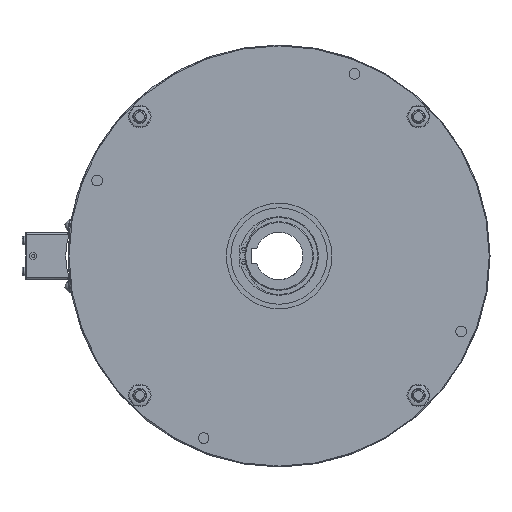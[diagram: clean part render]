
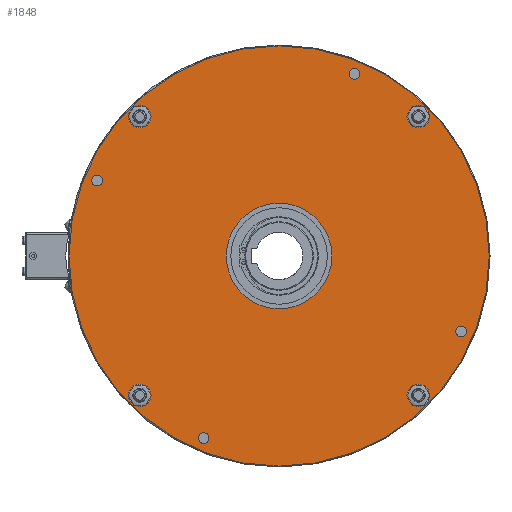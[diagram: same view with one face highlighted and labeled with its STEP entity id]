
A CAD part, left-side view. The second image highlights one B-rep face of the part: STEP entity #1848.
In plain terms, the highlighted planar face has unit normal (-1, 0, 0).
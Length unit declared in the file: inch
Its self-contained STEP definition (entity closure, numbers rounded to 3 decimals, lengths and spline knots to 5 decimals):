
#402=CARTESIAN_POINT('',(-2.3752,4.92136,-5.20266));
#403=VERTEX_POINT('',#402);
#404=CARTESIAN_POINT('',(-2.3752,5.20266,-5.20266));
#405=DIRECTION('',(1.0,0.0,0.0));
#406=DIRECTION('',(0.0,1.0,0.0));
#407=AXIS2_PLACEMENT_3D('',#404,#405,#406);
#408=CIRCLE('',#407,0.2813);
#409=EDGE_CURVE('',#403,#403,#408,.T.);
#451=CARTESIAN_POINT('',(-2.3752,4.92136,5.20266));
#452=VERTEX_POINT('',#451);
#453=CARTESIAN_POINT('',(-2.3752,5.20266,5.20266));
#454=DIRECTION('',(1.0,0.0,0.0));
#455=DIRECTION('',(0.0,1.0,0.0));
#456=AXIS2_PLACEMENT_3D('',#453,#454,#455);
#457=CIRCLE('',#456,0.2813);
#458=EDGE_CURVE('',#452,#452,#457,.T.);
#500=CARTESIAN_POINT('',(-2.3752,-5.48396,5.20266));
#501=VERTEX_POINT('',#500);
#502=CARTESIAN_POINT('',(-2.3752,-5.20266,5.20266));
#503=DIRECTION('',(1.0,0.0,0.0));
#504=DIRECTION('',(0.0,1.0,0.0));
#505=AXIS2_PLACEMENT_3D('',#502,#503,#504);
#506=CIRCLE('',#505,0.2813);
#507=EDGE_CURVE('',#501,#501,#506,.T.);
#549=CARTESIAN_POINT('',(-2.3752,-5.48396,-5.20266));
#550=VERTEX_POINT('',#549);
#551=CARTESIAN_POINT('',(-2.3752,-5.20266,-5.20266));
#552=DIRECTION('',(1.0,0.0,0.0));
#553=DIRECTION('',(0.0,1.0,0.0));
#554=AXIS2_PLACEMENT_3D('',#551,#552,#553);
#555=CIRCLE('',#554,0.2813);
#556=EDGE_CURVE('',#550,#550,#555,.T.);
#847=CARTESIAN_POINT('',(-2.3752,-3.01466,6.79761));
#848=VERTEX_POINT('',#847);
#849=CARTESIAN_POINT('',(-2.3752,-2.81566,6.79761));
#850=DIRECTION('',(1.0,0.0,0.0));
#851=DIRECTION('',(0.0,1.0,0.0));
#852=AXIS2_PLACEMENT_3D('',#849,#850,#851);
#853=CIRCLE('',#852,0.199);
#854=EDGE_CURVE('',#848,#848,#853,.T.);
#905=CARTESIAN_POINT('',(-2.3752,6.79761,3.01466));
#906=VERTEX_POINT('',#905);
#907=CARTESIAN_POINT('',(-2.3752,6.79761,2.81566));
#908=DIRECTION('',(1.0,0.0,0.0));
#909=DIRECTION('',(0.0,0.0,-1.0));
#910=AXIS2_PLACEMENT_3D('',#907,#908,#909);
#911=CIRCLE('',#910,0.199);
#912=EDGE_CURVE('',#906,#906,#911,.T.);
#963=CARTESIAN_POINT('',(-2.3752,3.01466,-6.79761));
#964=VERTEX_POINT('',#963);
#965=CARTESIAN_POINT('',(-2.3752,2.81566,-6.79761));
#966=DIRECTION('',(1.0,0.0,0.0));
#967=DIRECTION('',(0.0,-1.0,0.0));
#968=AXIS2_PLACEMENT_3D('',#965,#966,#967);
#969=CIRCLE('',#968,0.199);
#970=EDGE_CURVE('',#964,#964,#969,.T.);
#1021=CARTESIAN_POINT('',(-2.3752,-6.79761,-3.01466));
#1022=VERTEX_POINT('',#1021);
#1023=CARTESIAN_POINT('',(-2.3752,-6.79761,-2.81566));
#1024=DIRECTION('',(1.0,0.0,0.0));
#1025=DIRECTION('',(0.0,0.0,1.0));
#1026=AXIS2_PLACEMENT_3D('',#1023,#1024,#1025);
#1027=CIRCLE('',#1026,0.199);
#1028=EDGE_CURVE('',#1022,#1022,#1027,.T.);
#1169=CARTESIAN_POINT('',(-2.3752,-1.9685,0.));
#1170=VERTEX_POINT('',#1169);
#1171=CARTESIAN_POINT('',(-2.3752,0.,0.0));
#1172=DIRECTION('',(1.0,0.0,0.0));
#1173=DIRECTION('',(0.0,1.0,0.0));
#1174=AXIS2_PLACEMENT_3D('',#1171,#1172,#1173);
#1175=CIRCLE('',#1174,1.9685);
#1176=EDGE_CURVE('',#1170,#1170,#1175,.T.);
#1805=CARTESIAN_POINT('',(-2.3752,0.0,0.0));
#1806=DIRECTION('',(1.0,0.0,0.0));
#1807=DIRECTION('',(0.0,0.0,-1.0));
#1808=AXIS2_PLACEMENT_3D('',#1805,#1806,#1807);
#1809=PLANE('',#1808);
#1810=CARTESIAN_POINT('',(-2.3752,0.,7.84506));
#1811=VERTEX_POINT('',#1810);
#1812=CARTESIAN_POINT('',(-2.3752,0.0,0.0));
#1813=DIRECTION('',(1.0,0.0,0.0));
#1814=DIRECTION('',(0.0,0.0,-1.0));
#1815=AXIS2_PLACEMENT_3D('',#1812,#1813,#1814);
#1816=CIRCLE('',#1815,7.84506);
#1817=EDGE_CURVE('',#1811,#1811,#1816,.T.);
#1818=ORIENTED_EDGE('',*,*,#1817,.F.);
#1819=EDGE_LOOP('',(#1818));
#1820=FACE_OUTER_BOUND('',#1819,.T.);
#1821=ORIENTED_EDGE('',*,*,#458,.T.);
#1822=EDGE_LOOP('',(#1821));
#1823=FACE_BOUND('',#1822,.T.);
#1824=ORIENTED_EDGE('',*,*,#409,.T.);
#1825=EDGE_LOOP('',(#1824));
#1826=FACE_BOUND('',#1825,.T.);
#1827=ORIENTED_EDGE('',*,*,#556,.T.);
#1828=EDGE_LOOP('',(#1827));
#1829=FACE_BOUND('',#1828,.T.);
#1830=ORIENTED_EDGE('',*,*,#507,.T.);
#1831=EDGE_LOOP('',(#1830));
#1832=FACE_BOUND('',#1831,.T.);
#1833=ORIENTED_EDGE('',*,*,#854,.T.);
#1834=EDGE_LOOP('',(#1833));
#1835=FACE_BOUND('',#1834,.T.);
#1836=ORIENTED_EDGE('',*,*,#912,.T.);
#1837=EDGE_LOOP('',(#1836));
#1838=FACE_BOUND('',#1837,.T.);
#1839=ORIENTED_EDGE('',*,*,#970,.T.);
#1840=EDGE_LOOP('',(#1839));
#1841=FACE_BOUND('',#1840,.T.);
#1842=ORIENTED_EDGE('',*,*,#1028,.T.);
#1843=EDGE_LOOP('',(#1842));
#1844=FACE_BOUND('',#1843,.T.);
#1845=ORIENTED_EDGE('',*,*,#1176,.T.);
#1846=EDGE_LOOP('',(#1845));
#1847=FACE_BOUND('',#1846,.T.);
#1848=ADVANCED_FACE('',(#1820,#1823,#1826,#1829,#1832,#1835,#1838,#1841,#1844,#1847),#1809,.F.);
